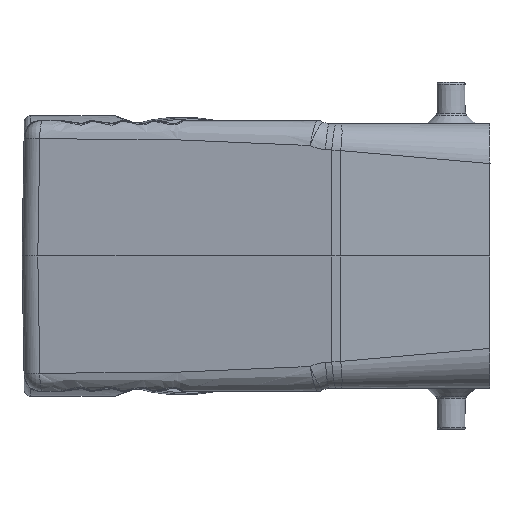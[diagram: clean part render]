
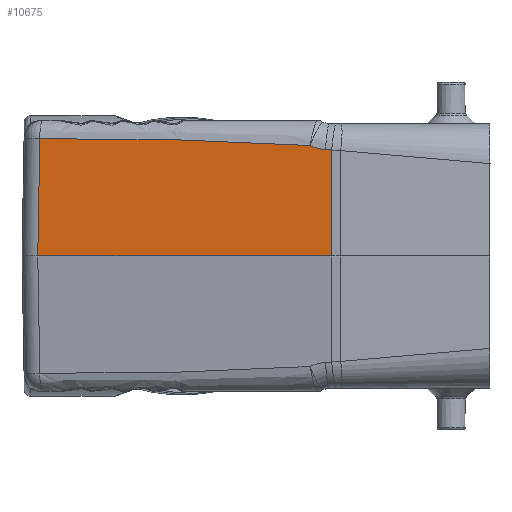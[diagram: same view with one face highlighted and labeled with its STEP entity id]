
A CAD part, left-side view. The second image highlights one B-rep face of the part: STEP entity #10675.
In plain terms, the highlighted planar face has unit normal (-0.989, 0.145, 0.018).
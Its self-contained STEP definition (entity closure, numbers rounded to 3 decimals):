
#723 = CARTESIAN_POINT ( 'NONE',  ( -52.877, 73.437, 0. ) ) ;
#1255 = CARTESIAN_POINT ( 'NONE',  ( -56.298, 47.921, 18.784 ) ) ;
#1360 = CARTESIAN_POINT ( 'NONE',  ( -57.721, 38.286, 18.442 ) ) ;
#1437 = DIRECTION ( 'NONE',  ( -0.145, -0.989, 0. ) ) ;
#1552 = CARTESIAN_POINT ( 'NONE',  ( -60., 25., 0. ) ) ;
#1682 = CARTESIAN_POINT ( 'NONE',  ( -59.513, 26.243, 17.257 ) ) ;
#1692 = CARTESIAN_POINT ( 'NONE',  ( -55.681, 52.104, 18.893 ) ) ;
#1911 = AXIS2_PLACEMENT_3D ( 'NONE', #25716, #10999, #28328 ) ;
#1923 = CARTESIAN_POINT ( 'NONE',  ( -53.466, 67.143, 19.054 ) ) ;
#1967 = CARTESIAN_POINT ( 'NONE',  ( -59.593, 25.701, 17.218 ) ) ;
#2129 = CARTESIAN_POINT ( 'NONE',  ( -54.328, 61.286, 19.032 ) ) ;
#3757 = CARTESIAN_POINT ( 'NONE',  ( -59.315, 27.575, 17.376 ) ) ;
#3863 = CARTESIAN_POINT ( 'NONE',  ( -59.064, 29.221, 17.944 ) ) ;
#4062 = CARTESIAN_POINT ( 'NONE',  ( -53.666, 65.783, 19.051 ) ) ;
#4178 = CARTESIAN_POINT ( 'NONE',  ( -54.212, 62.074, 19.037 ) ) ;
#4392 = CARTESIAN_POINT ( 'NONE',  ( -53.414, 67.496, 19.054 ) ) ;
#4506 = CARTESIAN_POINT ( 'NONE',  ( -54.205, 62.121, 19.037 ) ) ;
#4729 = B_SPLINE_CURVE_WITH_KNOTS ( 'NONE', 3,
 ( #6775, #11975, #1682, #19211 ),
 .UNSPECIFIED., .F., .F.,
 ( 4, 4 ),
 ( 0., 1. ),
 .UNSPECIFIED. ) ;
#6030 = CARTESIAN_POINT ( 'NONE',  ( -59.379, 27.147, 17.308 ) ) ;
#6365 = CARTESIAN_POINT ( 'NONE',  ( -59.443, 26.711, 17.282 ) ) ;
#6581 = CARTESIAN_POINT ( 'NONE',  ( -54.689, 58.832, 19.011 ) ) ;
#6740 = LINE ( 'NONE', #28768, #28414 ) ;
#6775 = CARTESIAN_POINT ( 'NONE',  ( -59.593, 25.701, 17.218 ) ) ;
#6895 = CARTESIAN_POINT ( 'NONE',  ( -55.881, 50.747, 18.86 ) ) ;
#9279 = CARTESIAN_POINT ( 'NONE',  ( -55.474, 53.505, 18.925 ) ) ;
#9383 = CARTESIAN_POINT ( 'NONE',  ( -54.096, 62.865, 19.041 ) ) ;
#9499 = EDGE_CURVE ( 'NONE', #15280, #20211, #27725, .T. ) ;
#10675 = ADVANCED_FACE ( 'NONE', ( #26939 ), #25842, .T. ) ;
#10999 = DIRECTION ( 'NONE',  ( -0.989, 0.145, 0.017 ) ) ;
#11082 = ORIENTED_EDGE ( 'NONE', *, *, #16958, .T. ) ;
#11229 = DIRECTION ( 'NONE',  ( 0.015, -0.017, 1. ) ) ;
#11551 = CARTESIAN_POINT ( 'NONE',  ( -54.266, 61.705, 19.035 ) ) ;
#11617 = ORIENTED_EDGE ( 'NONE', *, *, #11972, .F. ) ;
#11767 = CARTESIAN_POINT ( 'NONE',  ( -55.028, 56.531, 18.979 ) ) ;
#11825 = EDGE_CURVE ( 'NONE', #15280, #19183, #6740, .T. ) ;
#11868 = CARTESIAN_POINT ( 'NONE',  ( -59.793, 25.716, 5.739 ) ) ;
#11870 = CARTESIAN_POINT ( 'NONE',  ( -53.407, 67.547, 19.054 ) ) ;
#11951 = ORIENTED_EDGE ( 'NONE', *, *, #9499, .T. ) ;
#11972 = EDGE_CURVE ( 'NONE', #14997, #20211, #26199, .T. ) ;
#11975 = CARTESIAN_POINT ( 'NONE',  ( -59.563, 25.906, 17.236 ) ) ;
#11985 = CARTESIAN_POINT ( 'NONE',  ( -53.534, 66.68, 19.053 ) ) ;
#13468 = CARTESIAN_POINT ( 'NONE',  ( -59.064, 29.221, 17.944 ) ) ;
#13573 = CARTESIAN_POINT ( 'NONE',  ( -56.773, 44.7, 18.684 ) ) ;
#14332 = CARTESIAN_POINT ( 'NONE',  ( -59.894, 25.723, 0. ) ) ;
#14335 = CARTESIAN_POINT ( 'NONE',  ( -52.59, 73.104, 19.052 ) ) ;
#14429 = CARTESIAN_POINT ( 'NONE',  ( -55.077, 56.199, 18.974 ) ) ;
#14997 = VERTEX_POINT ( 'NONE', #1967 ) ;
#15280 = VERTEX_POINT ( 'NONE', #723 ) ;
#15605 = B_SPLINE_CURVE_WITH_KNOTS ( 'NONE', 3,
 ( #6365, #6030, #3757, #23701, #18788, #3863 ),
 .UNSPECIFIED., .F., .F.,
 ( 4, 2, 4 ),
 ( 0., 0.5, 1. ),
 .UNSPECIFIED. ) ;
#16619 = EDGE_CURVE ( 'NONE', #26581, #30442, #15605, .T. ) ;
#16739 = CARTESIAN_POINT ( 'NONE',  ( -54.45, 60.456, 19.026 ) ) ;
#16832 = CARTESIAN_POINT ( 'NONE',  ( -55.83, 51.091, 18.869 ) ) ;
#16958 = EDGE_CURVE ( 'NONE', #14997, #26581, #4729, .T. ) ;
#17108 = CARTESIAN_POINT ( 'NONE',  ( -59.064, 29.221, 17.944 ) ) ;
#18581 = CARTESIAN_POINT ( 'NONE',  ( -56.06, 49.535, 18.829 ) ) ;
#18788 = CARTESIAN_POINT ( 'NONE',  ( -59.124, 28.828, 17.751 ) ) ;
#19114 = CARTESIAN_POINT ( 'NONE',  ( -53.399, 67.6, 19.054 ) ) ;
#19183 = VERTEX_POINT ( 'NONE', #28226 ) ;
#19211 = CARTESIAN_POINT ( 'NONE',  ( -59.443, 26.711, 17.282 ) ) ;
#19221 = CARTESIAN_POINT ( 'NONE',  ( -55.855, 50.92, 18.864 ) ) ;
#19341 = CARTESIAN_POINT ( 'NONE',  ( -54.209, 62.097, 19.037 ) ) ;
#20211 = VERTEX_POINT ( 'NONE', #27204 ) ;
#21397 = CARTESIAN_POINT ( 'NONE',  ( -55.045, 56.419, 18.977 ) ) ;
#21504 = CARTESIAN_POINT ( 'NONE',  ( -53.913, 64.104, 19.047 ) ) ;
#21727 = CARTESIAN_POINT ( 'NONE',  ( -55.241, 55.088, 18.955 ) ) ;
#21831 = CARTESIAN_POINT ( 'NONE',  ( -53.104, 69.604, 19.057 ) ) ;
#23024 = B_SPLINE_CURVE_WITH_KNOTS ( 'NONE', 3,
 ( #13468, #28438, #1360, #13573, #1255, #18581, #31055, #6895, #19221, #26492, #16832, #1692, #9279, #21727, #26388, #14429, #21397, #11767, #31582, #6581, #16739, #2129, #11551, #26723, #26830, #4178, #19341, #24224, #4506, #9383, #21504, #4062, #11985, #1923, #28880, #4392, #11870, #29203, #19114, #21831, #31376, #14335 ),
 .UNSPECIFIED., .F., .F.,
 ( 4, 1, 1, 1, 1, 1, 1, 2, 2, 1, 1, 1, 2, 2, 1, 1, 1, 1, 1, 1, 1, 2, 2, 1, 1, 1, 1, 1, 1, 2, 2, 4 ),
 ( 0., 0.25, 0.375, 0.438, 0.469, 0.484, 0.492, 0.496, 0.5, 0.563, 0.594, 0.609, 0.617, 0.625, 0.688, 0.719, 0.734, 0.742, 0.746, 0.748, 0.749, 0.75, 0.75, 0.813, 0.844, 0.859, 0.867, 0.871, 0.873, 0.874, 0.875, 1. ),
 .UNSPECIFIED. ) ;
#23593 = CARTESIAN_POINT ( 'NONE',  ( -59.443, 26.711, 17.282 ) ) ;
#23701 = CARTESIAN_POINT ( 'NONE',  ( -59.187, 28.42, 17.598 ) ) ;
#24224 = CARTESIAN_POINT ( 'NONE',  ( -54.207, 62.112, 19.037 ) ) ;
#25716 = CARTESIAN_POINT ( 'NONE',  ( -60., 25., 0. ) ) ;
#25816 = ORIENTED_EDGE ( 'NONE', *, *, #11825, .F. ) ;
#25842 = PLANE ( 'NONE',  #1911 ) ;
#26199 = B_SPLINE_CURVE_WITH_KNOTS ( 'NONE', 3,
 ( #29305, #31580, #11868, #14332 ),
 .UNSPECIFIED., .F., .F.,
 ( 4, 4 ),
 ( 0., 1. ),
 .UNSPECIFIED. ) ;
#26388 = CARTESIAN_POINT ( 'NONE',  ( -55.126, 55.868, 18.968 ) ) ;
#26492 = CARTESIAN_POINT ( 'NONE',  ( -55.838, 51.036, 18.867 ) ) ;
#26581 = VERTEX_POINT ( 'NONE', #23593 ) ;
#26723 = CARTESIAN_POINT ( 'NONE',  ( -54.235, 61.915, 19.036 ) ) ;
#26830 = CARTESIAN_POINT ( 'NONE',  ( -54.22, 62.021, 19.037 ) ) ;
#26939 = FACE_OUTER_BOUND ( 'NONE', #29811, .T. ) ;
#27204 = CARTESIAN_POINT ( 'NONE',  ( -59.894, 25.723, 0. ) ) ;
#27725 = LINE ( 'NONE', #1552, #28507 ) ;
#27843 = ORIENTED_EDGE ( 'NONE', *, *, #16619, .T. ) ;
#28226 = CARTESIAN_POINT ( 'NONE',  ( -52.59, 73.104, 19.052 ) ) ;
#28328 = DIRECTION ( 'NONE',  ( -0.145, -0.989, 0. ) ) ;
#28414 = VECTOR ( 'NONE', #11229, 1000. ) ;
#28438 = CARTESIAN_POINT ( 'NONE',  ( -58.527, 32.834, 18.162 ) ) ;
#28507 = VECTOR ( 'NONE', #1437, 1000. ) ;
#28768 = CARTESIAN_POINT ( 'NONE',  ( -54.073, 74.821, -79.306 ) ) ;
#28880 = CARTESIAN_POINT ( 'NONE',  ( -53.432, 67.378, 19.054 ) ) ;
#29124 = EDGE_CURVE ( 'NONE', #30442, #19183, #23024, .T. ) ;
#29203 = CARTESIAN_POINT ( 'NONE',  ( -53.402, 67.581, 19.054 ) ) ;
#29305 = CARTESIAN_POINT ( 'NONE',  ( -59.593, 25.701, 17.218 ) ) ;
#29811 = EDGE_LOOP ( 'NONE', ( #11082, #27843, #31458, #25816, #11951, #11617 ) ) ;
#30442 = VERTEX_POINT ( 'NONE', #17108 ) ;
#31055 = CARTESIAN_POINT ( 'NONE',  ( -55.941, 50.343, 18.85 ) ) ;
#31376 = CARTESIAN_POINT ( 'NONE',  ( -52.835, 71.433, 19.057 ) ) ;
#31458 = ORIENTED_EDGE ( 'NONE', *, *, #29124, .T. ) ;
#31580 = CARTESIAN_POINT ( 'NONE',  ( -59.693, 25.709, 11.478 ) ) ;
#31582 = CARTESIAN_POINT ( 'NONE',  ( -54.885, 57.5, 18.994 ) ) ;
